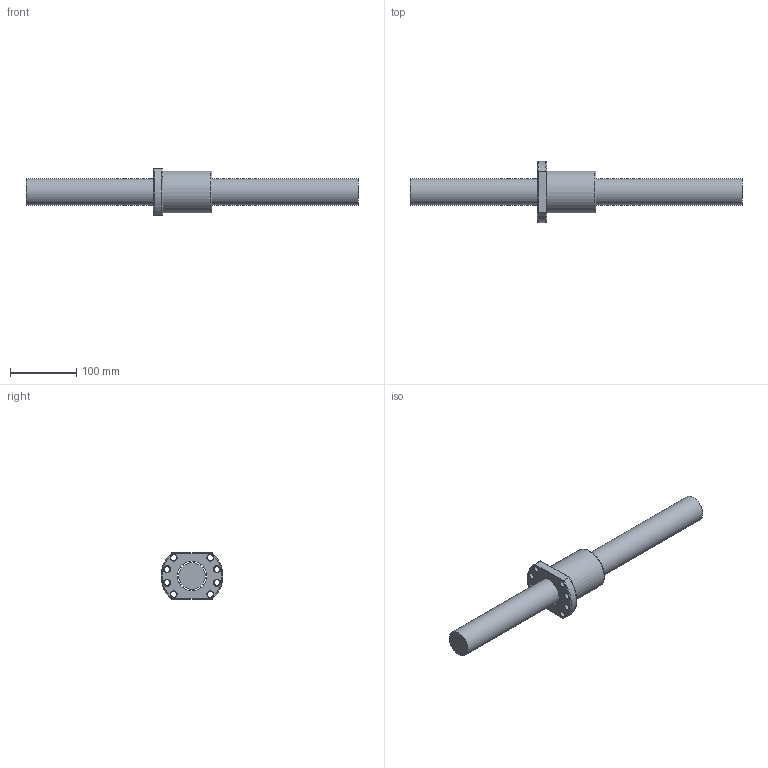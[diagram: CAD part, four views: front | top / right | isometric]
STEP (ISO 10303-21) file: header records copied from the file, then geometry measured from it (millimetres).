
FILE_DESCRIPTION (( 'STEP AP203' ), '1' );
FILE_NAME ('SFNU04010D-4.step', '2024-05-14T06:34:44', ( '' ), ( '' ), 'SwSTEP 2.0', 'SolidWorks 2022', '' );
FILE_SCHEMA (( 'CONFIG_CONTROL_DESIGN' ));
Length unit declared in the file: millimetre
Products named in the file (1): SFNU04010D-4
Bounding box: 500 x 93 x 70 mm (x, y, z)
Volume: 797998.5 mm3; surface area: 106650.1 mm2
Topology: 2 solids, 2 shells, 58 faces, 149 edges, 96 vertices
Faces by surface type: cylinder 20, cone 17, plane 12, torus 5, bspline 4
Full cylindrical faces by diameter (mm): 4 x1, 7 x5, 9 x8, 40 x1, 44.1 x1, 63 x1
Entity records: 3286 total; most frequent: CARTESIAN_POINT 2124, DIRECTION 214, ORIENTED_EDGE 182, EDGE_LOOP 106, AXIS2_PLACEMENT_3D 99, EDGE_CURVE 91, VERTEX_POINT 75, FACE_OUTER_BOUND 68
